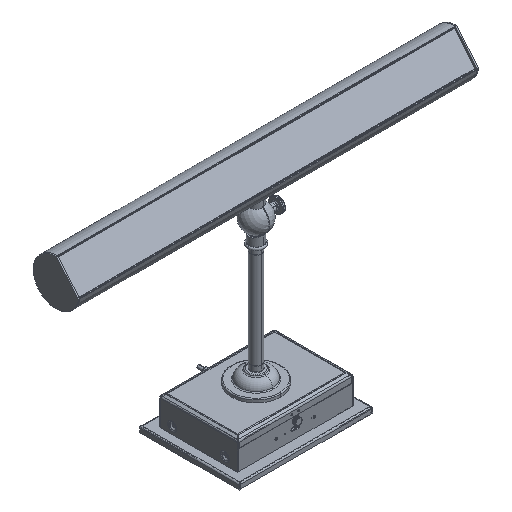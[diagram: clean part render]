
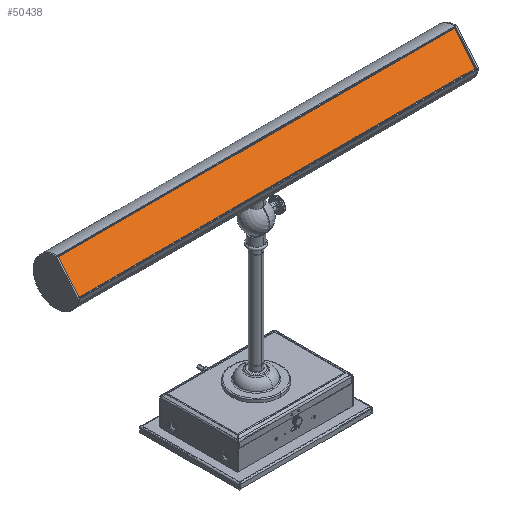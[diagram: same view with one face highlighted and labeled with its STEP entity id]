
A CAD part, isometric view. The second image highlights one B-rep face of the part: STEP entity #50438.
In plain terms, the highlighted planar face has unit normal (0, -0.766, 0.643) as drawn and (0, 1, 0) by its records, which use the part's own axes.
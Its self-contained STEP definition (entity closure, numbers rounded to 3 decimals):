
#50311=DIRECTION('',(0.,0.,1.));
#50312=VECTOR('',#50311,36.5);
#50313=CARTESIAN_POINT('',(-227.,1.5,-18.25));
#50314=LINE('',#50313,#50312);
#50318=DIRECTION('',(-1.,0.,0.));
#50319=VECTOR('',#50318,454.);
#50320=CARTESIAN_POINT('',(227.,1.5,-18.25));
#50321=LINE('',#50320,#50319);
#50325=DIRECTION('',(0.,0.,-1.));
#50326=VECTOR('',#50325,36.5);
#50327=CARTESIAN_POINT('',(227.,1.5,18.25));
#50328=LINE('',#50327,#50326);
#50332=DIRECTION('',(1.,0.,0.));
#50333=VECTOR('',#50332,454.);
#50334=CARTESIAN_POINT('',(-227.,1.5,18.25));
#50335=LINE('',#50334,#50333);
#50347=CARTESIAN_POINT('',(-227.,1.5,-18.25));
#50348=CARTESIAN_POINT('',(-227.,1.5,18.25));
#50349=VERTEX_POINT('',#50347);
#50350=VERTEX_POINT('',#50348);
#50351=CARTESIAN_POINT('',(227.,1.5,18.25));
#50352=VERTEX_POINT('',#50351);
#50353=CARTESIAN_POINT('',(227.,1.5,-18.25));
#50354=VERTEX_POINT('',#50353);
#50427=CARTESIAN_POINT('',(0.,1.5,0.));
#50428=DIRECTION('',(0.,1.,0.));
#50429=DIRECTION('',(1.,0.,0.));
#50430=AXIS2_PLACEMENT_3D('',#50427,#50428,#50429);
#50431=PLANE('',#50430);
#50432=ORIENTED_EDGE('',*,*,#50379,.F.);
#50433=ORIENTED_EDGE('',*,*,#50394,.F.);
#50434=ORIENTED_EDGE('',*,*,#50408,.F.);
#50435=ORIENTED_EDGE('',*,*,#50421,.F.);
#50436=EDGE_LOOP('',(#50432,#50433,#50434,#50435));
#50437=FACE_OUTER_BOUND('',#50436,.F.);
#50379=EDGE_CURVE('',#50349,#50350,#50314,.T.);
#50394=EDGE_CURVE('',#50354,#50349,#50321,.T.);
#50408=EDGE_CURVE('',#50352,#50354,#50328,.T.);
#50421=EDGE_CURVE('',#50350,#50352,#50335,.T.);
#50438=ADVANCED_FACE('',(#50437),#50431,.T.);
